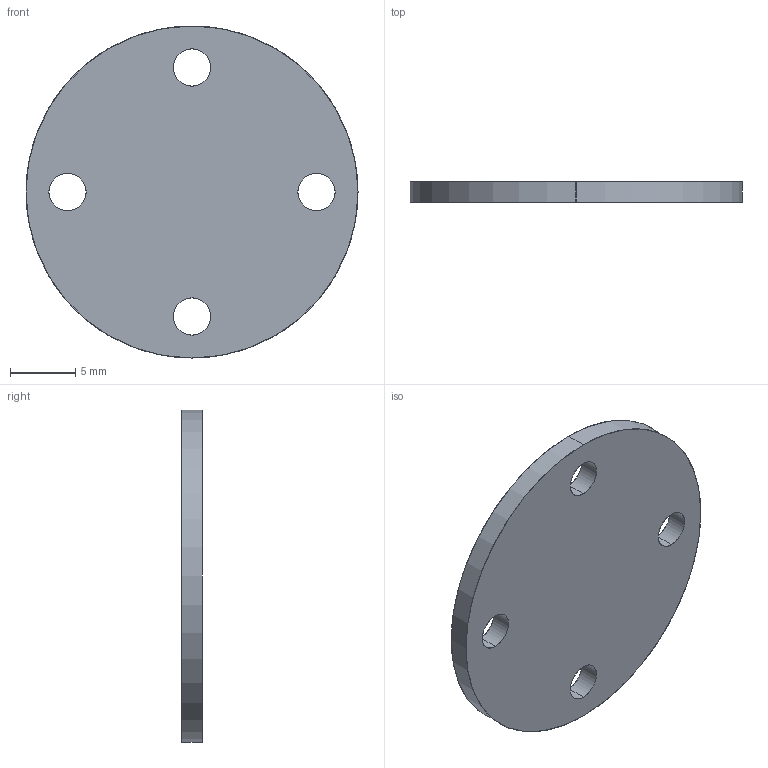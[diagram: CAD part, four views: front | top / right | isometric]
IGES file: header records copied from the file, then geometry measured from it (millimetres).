
Start section: SolidWorks IGES file using analytic representation for surfaces
Global section: file name: C:\Users\Bud\Documents\GitHub\telemetry\Hardware\Masthead hardware\IGES\pcbs.IGS; native system: SolidWorks 2011; preprocessor: SolidWorks 2011; author: Bud; date: 131225.212028; units: inch
Bounding box: 25.4 x 1.6 x 25.4 mm (x, y, z)
Surface area: 1147.5 mm2 (no closed solid volume)
Topology: 0 solids, 0 shells, 12 faces, 360 edges, 360 vertices
Faces by surface type: revolution 10, bspline 2
